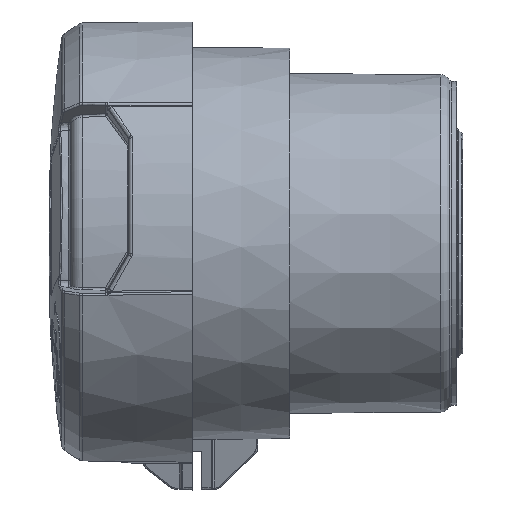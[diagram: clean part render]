
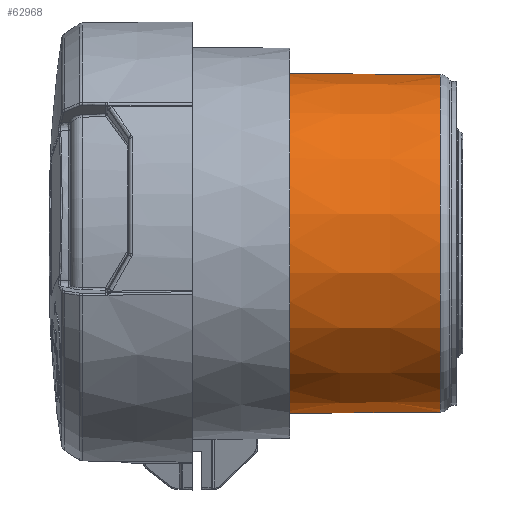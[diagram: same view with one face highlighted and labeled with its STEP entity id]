
A CAD part, left-side view. The second image highlights one B-rep face of the part: STEP entity #62968.
In plain terms, the highlighted conical face has half-angle 0.5 degrees and reference radius 45.224 mm.
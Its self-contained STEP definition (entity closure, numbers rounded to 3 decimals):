
#15505=CARTESIAN_POINT('',(0.,-62.,0.));
#15506=DIRECTION('',(0.,-1.,0.));
#15507=DIRECTION('',(0.,0.,1.));
#15508=AXIS2_PLACEMENT_3D('',#15505,#15506,#15507);
#15537=DIRECTION('',(0.,-1.,-0.009));
#15538=VECTOR('',#15537,40.212);
#15539=CARTESIAN_POINT('',(0.,-62.,45.399));
#15540=LINE('',#15539,#15538);
#15544=CARTESIAN_POINT('',(0.,-102.21,0.));
#15545=DIRECTION('',(0.,-1.,0.));
#15546=DIRECTION('',(0.,0.,1.));
#15547=AXIS2_PLACEMENT_3D('',#15544,#15545,#15546);
#15552=DIRECTION('',(0.,1.,-0.009));
#15553=VECTOR('',#15552,40.212);
#15554=CARTESIAN_POINT('',(0.,-102.21,
-45.048));
#15555=LINE('',#15554,#15553);
#39380=CARTESIAN_POINT('',(0.,-102.21,-45.048));
#39381=CARTESIAN_POINT('',(0.,-102.21,45.048));
#39382=VERTEX_POINT('',#39380);
#39383=VERTEX_POINT('',#39381);
#41242=CARTESIAN_POINT('',(0.,-62.,-45.399));
#41243=VERTEX_POINT('',#41242);
#41244=CARTESIAN_POINT('',(0.,-62.,45.399));
#41245=VERTEX_POINT('',#41244);
#62956=CARTESIAN_POINT('',(0.,-82.105,0.));
#62957=DIRECTION('',(0.,1.,0.));
#62958=DIRECTION('',(0.,0.,-1.));
#62959=AXIS2_PLACEMENT_3D('',#62956,#62957,#62958);
#62960=CONICAL_SURFACE('',#62959,45.224,0.5);
#62961=ORIENTED_EDGE('',*,*,#62936,.F.);
#62962=ORIENTED_EDGE('',*,*,#62951,.T.);
#62964=ORIENTED_EDGE('',*,*,#62963,.T.);
#62965=ORIENTED_EDGE('',*,*,#62947,.T.);
#62966=EDGE_LOOP('',(#62961,#62962,#62964,#62965));
#62967=FACE_OUTER_BOUND('',#62966,.F.);
#15509=CIRCLE('',#15508,45.399);
#15548=CIRCLE('',#15547,45.048);
#62936=EDGE_CURVE('',#41245,#41243,#15509,.T.);
#62947=EDGE_CURVE('',#39382,#41243,#15555,.T.);
#62951=EDGE_CURVE('',#41245,#39383,#15540,.T.);
#62963=EDGE_CURVE('',#39383,#39382,#15548,.T.);
#62968=ADVANCED_FACE('',(#62967),#62960,.T.);
